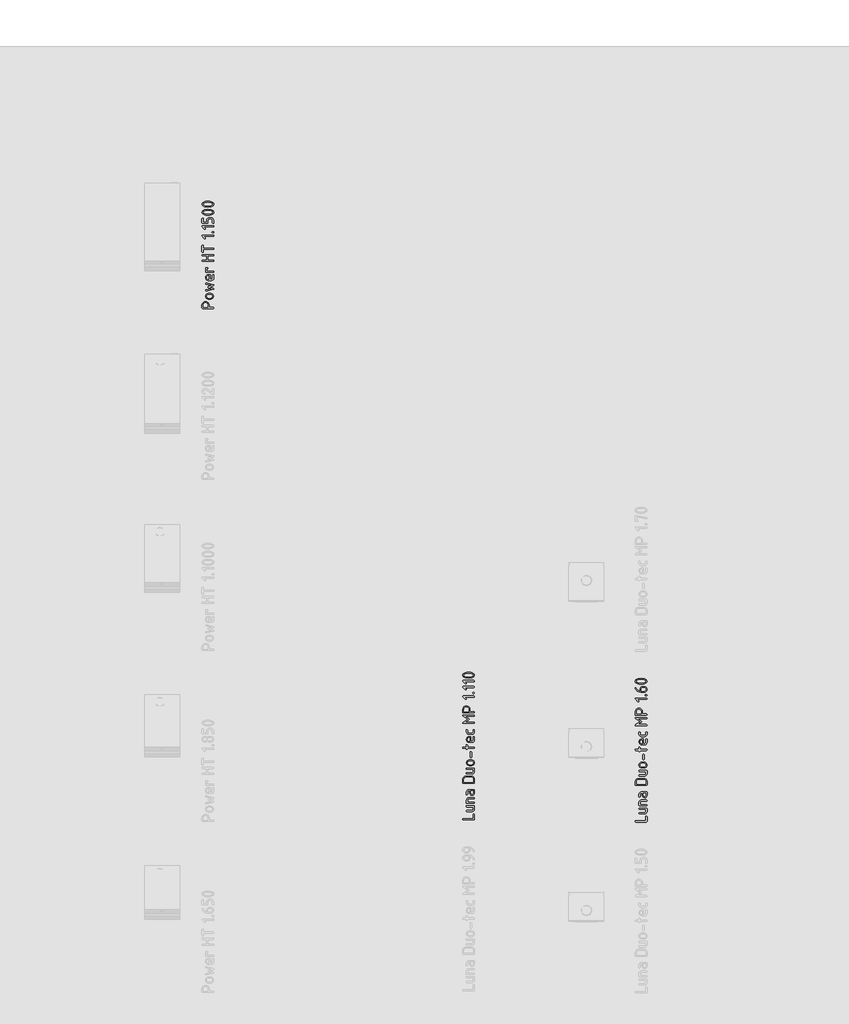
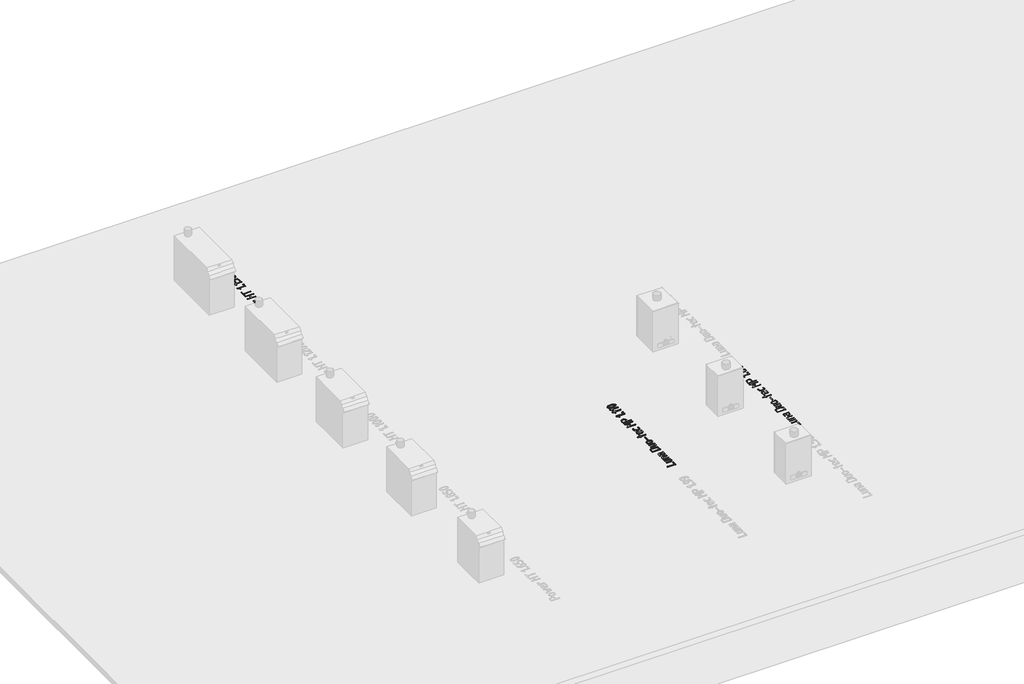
# One storey, part 34 of 37: 3 proxies.
"""IFC4 building model written with IfcOpenShell, lengths in millimetres."""

from ifc_helpers import new_model, si_unit, frame, origin, origin_with_axes, place, context, project, spatial, polyline, outline, extrude, element, save

model = new_model("IFC4")

# Units and contexts
model_context = context("Model", 3, world=origin())
ifc_project = project(units=[si_unit("LENGTHUNIT", "METRE", prefix="MILLI")], contexts=[model_context])

# Site, building, storey
site = spatial("IfcSite", under=ifc_project)
building = spatial("IfcBuilding", under=site)
storey = spatial("IfcBuildingStorey", under=building, Name="01_Стартовый вид_Площадка", Elevation=0.0)

# Proxies
placement = place(None, origin())
element("IfcBuildingElementProxy", 1, Name="150 мм", ObjectType="150 мм", at=placement, inside=storey, context=model_context, shape_type="SweptSolid", body=[
    extrude(outline(polyline([(10289.4415309, 17.2253481), (10283.7783913, 19.143025), (10281.8906781, 24.8960557), (10283.7684034, 30.6490864), (10289.4015793, 32.5667633), (10417.4065123, 32.5667633), (10417.4065123, 85.0631684), (10419.3241892, 90.6963443), (10425.0772199, 92.5740696), (10430.8302506, 90.6963443), (10432.7479275, 85.0631684), (10432.7479275, 24.8960557), (10430.8602143, 19.143025), (10425.1970747, 17.2253481), (10289.4415309, 17.2253481)])), frame((0.0, 0.0, -10.0), z_axis=(0.0, 0.0, 1.0), x_axis=(1.0, 0.0, 0.0)), (0.0, 0.0, 1.0), 10.0),
    extrude(outline(polyline([(10335.3858733, 196.2085254), (10425.2769779, 196.2085254), (10430.8801901, 194.3507759), (10432.7479275, 188.7775274), (10432.7479275, 151.7024407), (10430.5805531, 140.2063672), (10424.0784299, 130.6479464), (10414.4201301, 124.2057505), (10402.784226, 122.0583519), (10335.3858733, 122.0583519), (10329.7826611, 123.9760288), (10327.9149237, 129.7290595), (10329.7826611, 135.4820902), (10335.3858733, 137.3997671), (10402.5045648, 137.3997671), (10412.9918603, 141.6745885), (10417.4065123, 151.9021987), (10417.4065123, 180.8671102), (10335.3858733, 180.8671102), (10329.7826611, 182.7847871), (10327.9149237, 188.5378178), (10329.7826611, 194.2908485), (10335.3858733, 196.2085254)])), frame((0.0, 0.0, -10.0), z_axis=(0.0, 0.0, 1.0), x_axis=(1.0, 0.0, 0.0)), (0.0, 0.0, 1.0), 10.0),
    extrude(outline(polyline([(10425.2769779, 226.8913558), (10335.3858733, 226.8913558), (10329.7826611, 228.7491053), (10327.9149237, 234.3223538), (10327.9149237, 271.3974405), (10330.0822981, 282.893514), (10336.5844213, 292.4519348), (10346.2427211, 298.8941306), (10357.8786252, 301.0415292), (10425.2769779, 301.0415292), (10430.8801901, 299.1238523), (10432.7479275, 293.3708216), (10430.8801901, 287.6177909), (10425.2769779, 285.700114), (10358.1582865, 285.700114), (10347.5511361, 281.5251716), (10343.2563389, 271.1976825), (10343.2563389, 242.232771), (10425.2769779, 242.232771), (10430.8801901, 240.3150941), (10432.7479275, 234.5620634), (10430.8801901, 228.8090327), (10425.2769779, 226.8913558)])), frame((0.0, 0.0, -10.0), z_axis=(0.0, 0.0, 1.0), x_axis=(1.0, 0.0, 0.0)), (0.0, 0.0, 1.0), 10.0),
    extrude(outline(polyline([(10432.7479275, 360.5294647), (10430.5256197, 348.9135364), (10423.8586961, 339.2352608), (10413.9656806, 332.7031739), (10402.0650971, 330.5258116), (10386.6038271, 334.5209718), (10375.1876568, 345.2779406), (10371.3822667, 360.5294647), (10371.3822667, 390.5331179), (10357.3193028, 390.5331179), (10347.3114265, 386.2183449), (10343.2563389, 375.5512671), (10343.2563389, 345.5476139), (10341.338662, 339.9144381), (10335.5856313, 338.0367128), (10329.8326006, 339.9144381), (10327.9149237, 345.5476139), (10327.9149237, 375.5512671), (10330.0822981, 387.2321168), (10336.5844213, 397.0252532), (10346.2427211, 403.6622131), (10357.8786252, 405.8745331), (10425.2769779, 405.8745331), (10430.8801901, 403.9568562), (10432.7479275, 398.2038255), (10432.7479275, 360.5294647)]), holes=[polyline([(10386.7236819, 390.5331179), (10386.7236819, 360.5294647), (10391.1982614, 349.9223144), (10402.0650971, 345.5476139), (10412.8720055, 349.9822418), (10417.4065123, 360.5294647), (10417.4065123, 390.5331179), (10386.7236819, 390.5331179)])]), frame((0.0, 0.0, -10.0), z_axis=(0.0, 0.0, 1.0), x_axis=(1.0, 0.0, 0.0)), (0.0, 0.0, 1.0), 10.0),
    extrude(outline(polyline([(10289.4415309, 487.6954141), (10283.7783913, 489.5631515), (10281.8906781, 495.1663637), (10281.8906781, 539.912158), (10284.6173749, 554.3846259), (10292.7974655, 566.4000702), (10304.9527404, 574.4902696), (10319.6049905, 577.1870028), (10395.0336152, 577.1870028), (10409.5360467, 574.4603059), (10421.7212854, 566.2802154), (10429.991267, 554.2348074), (10432.7479275, 539.912158), (10432.7479275, 495.1663637), (10430.8602143, 489.5631515), (10425.1970747, 487.6954141), (10289.4415309, 487.6954141)]), holes=[polyline([(10297.2320933, 503.0368293), (10417.4065123, 503.0368293), (10417.4065123, 539.7923032), (10415.7585087, 548.2670368), (10410.814498, 555.3934039), (10403.5333185, 560.2325417), (10394.8738088, 561.8455876), (10319.7647969, 561.8455876), (10311.1052871, 560.2325417), (10303.8241076, 555.3934039), (10298.8800969, 548.2670368), (10297.2320933, 539.7923032), (10297.2320933, 503.0368293)])]), frame((0.0, 0.0, -10.0), z_axis=(0.0, 0.0, 1.0), x_axis=(1.0, 0.0, 0.0)), (0.0, 0.0, 1.0), 10.0),
    extrude(outline(polyline([(10335.3858733, 682.0200066), (10425.2769779, 682.0200066), (10430.8801901, 680.1622571), (10432.7479275, 674.5890087), (10432.7479275, 637.5139219), (10430.5805531, 626.0178484), (10424.0784299, 616.4594276), (10414.4201301, 610.0172318), (10402.784226, 607.8698332), (10335.3858733, 607.8698332), (10329.7826611, 609.7875101), (10327.9149237, 615.5405408), (10329.7826611, 621.2935715), (10335.3858733, 623.2112484), (10402.5045648, 623.2112484), (10412.9918603, 627.4860698), (10417.4065123, 637.7136799), (10417.4065123, 666.6785914), (10335.3858733, 666.6785914), (10329.7826611, 668.5962683), (10327.9149237, 674.349299), (10329.7826611, 680.1023297), (10335.3858733, 682.0200066)])), frame((0.0, 0.0, -10.0), z_axis=(0.0, 0.0, 1.0), x_axis=(1.0, 0.0, 0.0)), (0.0, 0.0, 1.0), 10.0),
    extrude(outline(polyline([(10395.3132764, 712.702837), (10365.3495748, 712.702837), (10350.9570102, 715.414552), (10338.8616627, 723.549697), (10330.6516084, 735.5301837), (10327.9149237, 749.7779238), (10330.6216447, 764.1754824), (10338.7418078, 776.1260053), (10350.8071917, 784.1712592), (10365.3495748, 786.8530105), (10395.3132764, 786.8530105), (10409.705841, 784.1412955), (10421.8011886, 776.0061505), (10430.0112428, 764.0256638), (10432.7479275, 749.7779238), (10430.0112428, 735.5301837), (10421.8011886, 723.549697), (10409.705841, 715.414552), (10395.3132764, 712.702837)]), holes=[polyline([(10394.8738088, 771.5115953), (10364.8701556, 771.5115953), (10356.2406096, 769.9185252), (10348.969418, 765.1393148), (10344.0254072, 758.1128267), (10342.3774036, 749.7779238), (10344.0254072, 741.4430208), (10348.969418, 734.4165328), (10356.2406096, 729.6373224), (10364.8701556, 728.0442522), (10394.8738088, 728.0442522), (10403.583258, 729.6223405), (10410.8544496, 734.3566054), (10415.7684966, 741.3681115), (10417.4065123, 749.7779238), (10415.7585087, 758.1128267), (10410.814498, 765.1393148), (10403.5333185, 769.9185252), (10394.8738088, 771.5115953)])]), frame((0.0, 0.0, -10.0), z_axis=(0.0, 0.0, 1.0), x_axis=(1.0, 0.0, 0.0)), (0.0, 0.0, 1.0), 10.0),
    extrude(outline(polyline([(10394.3943895, 884.694484), (10394.3943895, 824.6871777), (10392.4767126, 819.0540018), (10386.7236819, 817.1762765), (10380.9706512, 819.0540018), (10379.0529743, 824.6871777), (10379.0529743, 884.694484), (10380.9706512, 890.3276599), (10386.7236819, 892.2053852), (10392.4767126, 890.3276599), (10394.3943895, 884.694484)])), frame((0.0, 0.0, -10.0), z_axis=(0.0, 0.0, 1.0), x_axis=(1.0, 0.0, 0.0)), (0.0, 0.0, 1.0), 10.0),
    extrude(outline(polyline([(10343.2563389, 937.7102599), (10343.2563389, 930.1993587), (10341.338662, 924.5661828), (10335.5856313, 922.6884575), (10329.8326006, 924.5661828), (10327.9149237, 930.1993587), (10327.9149237, 937.7102599), (10289.5613857, 937.7102599), (10283.808355, 939.6279368), (10281.8906781, 945.3809675), (10283.808355, 951.1339982), (10289.5613857, 953.0516751), (10327.9149237, 953.0516751), (10327.9149237, 975.5843787), (10329.8326006, 981.1875909), (10335.5856313, 983.0553283), (10341.338662, 981.1875909), (10343.2563389, 975.5843787), (10343.2563389, 953.0516751), (10425.2769779, 953.0516751), (10430.8801901, 951.1339982), (10432.7479275, 945.3809675), (10430.8801901, 939.6279368), (10425.2769779, 937.7102599), (10343.2563389, 937.7102599)])), frame((0.0, 0.0, -10.0), z_axis=(0.0, 0.0, 1.0), x_axis=(1.0, 0.0, 0.0)), (0.0, 0.0, 1.0), 10.0),
    extrude(outline(polyline([(10386.7236819, 1027.2018486), (10402.0650971, 1027.2018486), (10412.8720055, 1031.6364764), (10417.4065123, 1042.1836994), (10417.4065123, 1079.6982537), (10419.3241892, 1085.3314296), (10425.0772199, 1087.2091549), (10430.8302506, 1085.3314296), (10432.7479275, 1079.6982537), (10432.7479275, 1042.1836994), (10430.5805531, 1030.5278195), (10424.0784299, 1020.729689), (10414.4201301, 1014.0777473), (10402.784226, 1011.8604334), (10365.3495748, 1011.8604334), (10350.9570102, 1014.6420637), (10338.8616627, 1022.9869546), (10330.6516084, 1035.2271266), (10327.9149237, 1049.6946006), (10330.5717052, 1064.2719414), (10338.5420498, 1076.3622949), (10350.3876999, 1084.4974399), (10364.6703976, 1087.2091549), (10386.7236819, 1087.2091549), (10386.7236819, 1027.2018486)]), holes=[polyline([(10341.3786136, 1049.6946006), (10343.0266172, 1041.0650545), (10347.9706279, 1033.7938629), (10355.2418195, 1028.8498522), (10363.8713656, 1027.2018486), (10371.3822667, 1027.2018486), (10371.3822667, 1072.1873525), (10363.8713656, 1072.1873525), (10355.2418195, 1070.5393489), (10347.9706279, 1065.5953382), (10343.0266172, 1058.3241466), (10341.3786136, 1049.6946006)])]), frame((0.0, 0.0, -10.0), z_axis=(0.0, 0.0, 1.0), x_axis=(1.0, 0.0, 0.0)), (0.0, 0.0, 1.0), 10.0),
    extrude(outline(polyline([(10358.0783833, 1132.0348524), (10402.584468, 1132.0348524), (10413.0318119, 1136.4694803), (10417.4065123, 1147.0167032), (10417.4065123, 1169.5494068), (10419.3241892, 1175.152619), (10425.0772199, 1177.0203564), (10430.8302506, 1175.152619), (10432.7479275, 1169.5494068), (10432.7479275, 1147.0167032), (10430.5805531, 1135.3608233), (10424.0784299, 1125.5626929), (10414.4201301, 1118.9107511), (10402.784226, 1116.6934372), (10357.8786252, 1116.6934372), (10346.2427211, 1118.9107511), (10336.5844213, 1125.5626929), (10330.0822981, 1135.3608233), (10327.9149237, 1147.0167032), (10327.9149237, 1169.5494068), (10329.8326006, 1175.152619), (10335.5856313, 1177.0203564), (10341.338662, 1175.152619), (10343.2563389, 1169.5494068), (10343.2563389, 1147.0167032), (10347.5910877, 1136.4095529), (10358.0783833, 1132.0348524)])), frame((0.0, 0.0, -10.0), z_axis=(0.0, 0.0, 1.0), x_axis=(1.0, 0.0, 0.0)), (0.0, 0.0, 1.0), 10.0),
    extrude(outline(polyline([(10281.8906781, 1353.8461472), (10283.7783913, 1360.0785971), (10289.4415309, 1362.1560804), (10425.1970747, 1362.1560804), (10430.8602143, 1360.2384035), (10432.7479275, 1354.4853728), (10430.8602143, 1348.7323421), (10425.1970747, 1346.8146652), (10314.2514758, 1346.8146652), (10360.0759634, 1316.611254), (10364.5904944, 1309.7395785), (10360.0759634, 1302.7879997), (10314.2514758, 1272.6644917), (10425.1970747, 1272.6644917), (10430.8602143, 1270.7468148), (10432.7479275, 1264.9937841), (10430.8602143, 1259.2407534), (10425.1970747, 1257.3230765), (10289.4415309, 1257.3230765), (10283.7783913, 1259.3606082), (10281.8906781, 1265.4732034), (10285.6461287, 1272.6644917), (10343.6159033, 1309.6197237), (10285.2066611, 1346.8146652), (10281.8906781, 1353.8461472)])), frame((0.0, 0.0, -10.0), z_axis=(0.0, 0.0, 1.0), x_axis=(1.0, 0.0, 0.0)), (0.0, 0.0, 1.0), 10.0),
    extrude(outline(polyline([(10281.8906781, 1400.3098604), (10281.8906781, 1437.5847051), (10285.2466127, 1454.8388033), (10295.3144164, 1469.2863014), (10310.1764124, 1479.0694499), (10327.9149237, 1482.3304994), (10346.452467, 1479.2392442), (10361.1546566, 1469.9654786), (10370.7430411, 1455.7477022), (10373.9391693, 1437.8244147), (10373.9391693, 1408.180326), (10425.3968328, 1408.180326), (10430.9101538, 1406.2626491), (10432.7479275, 1400.5096184), (10430.8602143, 1394.7565877), (10425.1970747, 1392.8389108), (10289.4415309, 1392.8389108), (10283.7783913, 1394.7066482), (10281.8906781, 1400.3098604)]), holes=[polyline([(10297.2320933, 1408.180326), (10358.5977541, 1408.180326), (10358.5977541, 1437.5847051), (10356.3754462, 1448.9759057), (10349.7085226, 1458.4594172), (10339.8155072, 1464.8566675), (10327.9149237, 1466.9890842), (10316.0143402, 1464.8566675), (10306.1213247, 1458.4594172), (10299.4544012, 1448.9759057), (10297.2320933, 1437.5847051), (10297.2320933, 1408.180326)])]), frame((0.0, 0.0, -10.0), z_axis=(0.0, 0.0, 1.0), x_axis=(1.0, 0.0, 0.0)), (0.0, 0.0, 1.0), 10.0),
    extrude(outline(polyline([(10307.6195098, 1594.8342109), (10324.9185535, 1577.5751188), (10327.07594, 1572.3414589), (10325.1982147, 1566.708283), (10319.5650388, 1564.8305577), (10314.331379, 1567.0278958), (10284.8470966, 1596.3523718), (10281.8906781, 1602.5049185), (10283.7783913, 1608.2579492), (10289.4415309, 1610.1756261), (10425.1970747, 1610.1756261), (10430.8602143, 1608.2579492), (10432.7479275, 1602.5049185), (10430.8602143, 1596.7518878), (10425.1970747, 1594.8342109), (10307.6195098, 1594.8342109)])), frame((0.0, 0.0, -10.0), z_axis=(0.0, 0.0, 1.0), x_axis=(1.0, 0.0, 0.0)), (0.0, 0.0, 1.0), 10.0),
    extrude(outline(polyline([(10417.4065123, 1640.8584565), (10411.6534816, 1642.7761334), (10409.7358047, 1648.5291641), (10411.6534816, 1654.2821948), (10417.4065123, 1656.1998717), (10425.0772199, 1656.1998717), (10430.8302506, 1654.2821948), (10432.7479275, 1648.5291641), (10430.8302506, 1642.7761334), (10425.0772199, 1640.8584565), (10417.4065123, 1640.8584565)])), frame((0.0, 0.0, -10.0), z_axis=(0.0, 0.0, 1.0), x_axis=(1.0, 0.0, 0.0)), (0.0, 0.0, 1.0), 10.0),
    extrude(outline(polyline([(10281.8906781, 1738.3403655), (10283.808355, 1743.8536866), (10289.5613857, 1745.6914603), (10296.1933516, 1742.0159129), (10303.4445674, 1726.7044614), (10316.6485719, 1713.4505175), (10329.69277, 1705.8097736), (10343.2563389, 1702.2241173), (10343.2563389, 1723.9178372), (10345.9680539, 1738.395299), (10354.1031988, 1750.345822), (10366.133625, 1758.3611121), (10380.5311836, 1761.0328755), (10395.4730828, 1761.0328755), (10409.8706414, 1758.3211605), (10421.9010676, 1750.1860156), (10430.0362125, 1738.2055289), (10432.7479275, 1723.9577888), (10430.0212307, 1709.6351395), (10421.8411402, 1697.6696346), (10409.7457926, 1689.5794352), (10395.2733248, 1686.8827021), (10349.76845, 1686.8827021), (10325.7375614, 1691.0276808), (10304.8628493, 1703.4626169), (10292.0583608, 1716.9862342), (10283.608597, 1731.668448), (10281.8906781, 1738.3403655)]), holes=[polyline([(10358.5977541, 1702.2241173), (10395.353228, 1702.2241173), (10403.8779011, 1703.8022056), (10410.9942802, 1708.5364704), (10415.8034543, 1715.5479766), (10417.4065123, 1723.9577888), (10415.7934664, 1732.367601), (10410.9543286, 1739.3791072), (10403.8279616, 1744.113372), (10395.353228, 1745.6914603), (10380.6510384, 1745.6914603), (10372.1263653, 1744.0983902), (10365.0099862, 1739.3191798), (10360.2008121, 1732.2926918), (10358.5977541, 1723.9577888), (10358.5977541, 1702.2241173)])]), frame((0.0, 0.0, -10.0), z_axis=(0.0, 0.0, 1.0), x_axis=(1.0, 0.0, 0.0)), (0.0, 0.0, 1.0), 10.0),
    extrude(outline(polyline([(10357.3193028, 1865.8658794), (10382.4588484, 1864.2378516), (10403.9428224, 1859.3537682), (10425.5466513, 1846.9388079), (10430.9476085, 1838.5814321), (10432.7479275, 1828.7907927), (10430.9550994, 1819.0001532), (10425.576615, 1810.6427774), (10404.0626772, 1798.2278171), (10382.5487395, 1793.3437337), (10357.3193028, 1791.7157059), (10332.0898661, 1793.3437337), (10310.5759284, 1798.2278171), (10289.0619907, 1810.6427774), (10283.6835062, 1819.0001532), (10281.8906781, 1828.7907927), (10283.6909972, 1838.5814321), (10289.0919544, 1846.9388079), (10310.6957832, 1859.3537682), (10332.1797572, 1864.2378516), (10357.3193028, 1865.8658794)]), holes=[polyline([(10357.3193028, 1850.5244642), (10322.161893, 1846.6891104), (10303.4645432, 1839.298064), (10297.2320933, 1828.7907927), (10303.4945069, 1818.3734124), (10322.2817478, 1811.0123297), (10357.3193028, 1807.0571211), (10392.4767126, 1810.8924749), (10411.1740624, 1818.2835213), (10417.4065123, 1828.7907927), (10411.1740624, 1839.298064), (10392.4767126, 1846.6891104), (10357.3193028, 1850.5244642)])]), frame((0.0, 0.0, -10.0), z_axis=(0.0, 0.0, 1.0), x_axis=(1.0, 0.0, 0.0)), (0.0, 0.0, 1.0), 10.0),
])
element("IfcBuildingElementProxy", 2, Name="150 мм", ObjectType="150 мм", at=placement, inside=storey, context=model_context, shape_type="SweptSolid", body=[
    extrude(outline(polyline([(4705.0274469, 6632.9020615), (4705.0274469, 6670.1769062), (4708.3833815, 6687.4310044), (4718.4511852, 6701.8785025), (4733.3131812, 6711.661651), (4751.0516925, 6714.9227005), (4769.5892359, 6711.8314453), (4784.2914255, 6702.5576797), (4793.87981, 6688.3399033), (4797.0759381, 6670.4166158), (4797.0759381, 6640.7725271), (4848.5336016, 6640.7725271), (4854.0469227, 6638.8548502), (4855.8846964, 6633.1018195), (4853.9969832, 6627.3487888), (4848.3338436, 6625.4311119), (4712.5782997, 6625.4311119), (4706.9151601, 6627.2988493), (4705.0274469, 6632.9020615)]), holes=[polyline([(4720.3688621, 6640.7725271), (4781.7345229, 6640.7725271), (4781.7345229, 6670.1769062), (4779.5122151, 6681.5681068), (4772.8452915, 6691.0516183), (4762.952276, 6697.4488686), (4751.0516925, 6699.5812853), (4739.1511091, 6697.4488686), (4729.2580936, 6691.0516183), (4722.59117, 6681.5681068), (4720.3688621, 6670.1769062), (4720.3688621, 6640.7725271)])]), frame((0.0, 0.0, -10.0), z_axis=(0.0, 0.0, 1.0), x_axis=(1.0, 0.0, 0.0)), (0.0, 0.0, 1.0), 10.0),
    extrude(outline(polyline([(4818.4500452, 6745.6055309), (4788.4863437, 6745.6055309), (4774.093779, 6748.3172459), (4761.9984315, 6756.4523909), (4753.7883773, 6768.4328776), (4751.0516925, 6782.6806177), (4753.7584136, 6797.0781763), (4761.8785767, 6809.0286992), (4773.9439605, 6817.0739531), (4788.4863437, 6819.7557044), (4818.4500452, 6819.7557044), (4832.8426099, 6817.0439894), (4844.9379574, 6808.9088444), (4853.1480116, 6796.9283577), (4855.8846964, 6782.6806177), (4853.1480116, 6768.4328776), (4844.9379574, 6756.4523909), (4832.8426099, 6748.3172459), (4818.4500452, 6745.6055309)]), holes=[polyline([(4818.0105776, 6804.4142892), (4788.0069245, 6804.4142892), (4779.3773784, 6802.8212191), (4772.1061868, 6798.0420087), (4767.1621761, 6791.0155206), (4765.5141725, 6782.6806177), (4767.1621761, 6774.3457147), (4772.1061868, 6767.3192267), (4779.3773784, 6762.5400163), (4788.0069245, 6760.9469461), (4818.0105776, 6760.9469461), (4826.7200269, 6762.5250344), (4833.9912184, 6767.2592993), (4838.9052655, 6774.2708054), (4840.5432812, 6782.6806177), (4838.8952776, 6791.0155206), (4833.9512668, 6798.0420087), (4826.6700874, 6802.8212191), (4818.0105776, 6804.4142892)])]), frame((0.0, 0.0, -10.0), z_axis=(0.0, 0.0, 1.0), x_axis=(1.0, 0.0, 0.0)), (0.0, 0.0, 1.0), 10.0),
    extrude(outline(polyline([(4855.8846964, 6925.1080791), (4850.4512785, 6917.8368875), (4809.7006444, 6902.6153271), (4850.2115689, 6887.3538151), (4855.8846964, 6880.0826235), (4854.1268259, 6875.2285039), (4848.8532144, 6872.4918191), (4760.3604158, 6850.31868), (4758.2030293, 6850.0789704), (4752.8395267, 6851.9566957), (4751.0516925, 6857.5898716), (4752.4699744, 6862.364088), (4756.72482, 6864.8610631), (4823.0844311, 6881.4809296), (4785.8095863, 6895.4240387), (4780.9354909, 6902.6153271), (4785.8095863, 6909.6468091), (4823.2042859, 6923.6298698), (4756.72482, 6940.3296395), (4752.4699744, 6942.886542), (4751.0516925, 6947.600831), (4753.1491516, 6952.8344909), (4758.2030293, 6955.1117322), (4760.3604158, 6954.8720226), (4849.292682, 6932.6189803), (4854.2366928, 6929.9422229), (4855.8846964, 6925.1080791)])), frame((0.0, 0.0, -10.0), z_axis=(0.0, 0.0, 1.0), x_axis=(1.0, 0.0, 0.0)), (0.0, 0.0, 1.0), 10.0),
    extrude(outline(polyline([(4809.8604508, 7001.2957842), (4825.201866, 7001.2957842), (4836.0087744, 7005.7304121), (4840.5432812, 7016.277635), (4840.5432812, 7053.7921894), (4842.4609581, 7059.4253652), (4848.2139888, 7061.3030905), (4853.9670195, 7059.4253652), (4855.8846964, 7053.7921894), (4855.8846964, 7016.277635), (4853.717322, 7004.6217551), (4847.2151987, 6994.8236247), (4837.5568989, 6988.1716829), (4825.9209948, 6985.954369), (4788.4863437, 6985.954369), (4774.093779, 6988.7359993), (4761.9984315, 6997.0808902), (4753.7883773, 7009.3210623), (4751.0516925, 7023.7885362), (4753.7084741, 7038.365877), (4761.6788187, 7050.4562306), (4773.5244687, 7058.5913756), (4787.8071664, 7061.3030905), (4809.8604508, 7061.3030905), (4809.8604508, 7001.2957842)]), holes=[polyline([(4764.5153824, 7023.7885362), (4766.163386, 7015.1589901), (4771.1073968, 7007.8877986), (4778.3785884, 7002.9437878), (4787.0081344, 7001.2957842), (4794.5190356, 7001.2957842), (4794.5190356, 7046.2812882), (4787.0081344, 7046.2812882), (4778.3785884, 7044.6332846), (4771.1073968, 7039.6892738), (4766.163386, 7032.4180822), (4764.5153824, 7023.7885362)])]), frame((0.0, 0.0, -10.0), z_axis=(0.0, 0.0, 1.0), x_axis=(1.0, 0.0, 0.0)), (0.0, 0.0, 1.0), 10.0),
    extrude(outline(polyline([(4758.5226421, 7090.7873729), (4752.9194299, 7092.7050498), (4751.0516925, 7098.4580805), (4751.0516925, 7143.6433424), (4752.9693694, 7149.2465546), (4758.7224001, 7151.114292), (4773.9040089, 7151.114292), (4779.5371848, 7149.2465546), (4781.4149101, 7143.6433424), (4779.5371848, 7138.0101665), (4773.9040089, 7136.1324412), (4766.3931077, 7136.1324412), (4766.3931077, 7106.1287881), (4848.4137468, 7106.1287881), (4854.016959, 7104.2111112), (4855.8846964, 7098.4580805), (4854.016959, 7092.7050498), (4848.4137468, 7090.7873729), (4758.5226421, 7090.7873729)])), frame((0.0, 0.0, -10.0), z_axis=(0.0, 0.0, 1.0), x_axis=(1.0, 0.0, 0.0)), (0.0, 0.0, 1.0), 10.0),
    extrude(outline(polyline([(4848.3338436, 7231.4170122), (4712.5782997, 7231.4170122), (4706.9151601, 7233.3346891), (4705.0274469, 7239.0877198), (4706.9451238, 7244.8407505), (4712.6981545, 7246.7584274), (4766.3931077, 7246.7584274), (4766.3931077, 7305.5671856), (4712.6981545, 7305.5671856), (4706.9451238, 7307.4848625), (4705.0274469, 7313.2378932), (4706.9151601, 7318.9909239), (4712.5782997, 7320.9086008), (4848.3338436, 7320.9086008), (4853.9969832, 7318.9909239), (4855.8846964, 7313.2378932), (4854.0269469, 7307.4848625), (4848.4536984, 7305.5671856), (4781.7345229, 7305.5671856), (4781.7345229, 7246.7584274), (4848.4536984, 7246.7584274), (4854.0269469, 7244.8407505), (4855.8846964, 7239.0877198), (4853.9969832, 7233.3346891), (4848.3338436, 7231.4170122)])), frame((0.0, 0.0, -10.0), z_axis=(0.0, 0.0, 1.0), x_axis=(1.0, 0.0, 0.0)), (0.0, 0.0, 1.0), 10.0),
    extrude(outline(polyline([(4712.6981545, 7349.8735123), (4706.9451238, 7351.7512376), (4705.0274469, 7357.3844135), (4705.0274469, 7432.7331351), (4706.9451238, 7438.3363472), (4712.6981545, 7440.2040846), (4718.4511852, 7438.3363472), (4720.3688621, 7432.7331351), (4720.3688621, 7402.7294819), (4848.3737952, 7402.7294819), (4854.0069711, 7400.811805), (4855.8846964, 7395.0587743), (4854.0069711, 7389.3057436), (4848.3737952, 7387.3880667), (4720.3688621, 7387.3880667), (4720.3688621, 7357.3844135), (4718.4511852, 7351.7512376), (4712.6981545, 7349.8735123)])), frame((0.0, 0.0, -10.0), z_axis=(0.0, 0.0, 1.0), x_axis=(1.0, 0.0, 0.0)), (0.0, 0.0, 1.0), 10.0),
    extrude(outline(polyline([(4730.7562787, 7553.5867313), (4748.0553224, 7536.3276392), (4750.2127089, 7531.0939794), (4748.3349836, 7525.4608035), (4742.7018077, 7523.5830782), (4737.4681478, 7525.7804163), (4707.9838655, 7555.1048922), (4705.0274469, 7561.2574389), (4706.9151601, 7567.0104696), (4712.5782997, 7568.9281465), (4848.3338436, 7568.9281465), (4853.9969832, 7567.0104696), (4855.8846964, 7561.2574389), (4853.9969832, 7555.5044082), (4848.3338436, 7553.5867313), (4730.7562787, 7553.5867313)])), frame((0.0, 0.0, -10.0), z_axis=(0.0, 0.0, 1.0), x_axis=(1.0, 0.0, 0.0)), (0.0, 0.0, 1.0), 10.0),
    extrude(outline(polyline([(4840.5432812, 7599.6109769), (4834.7902505, 7601.5286538), (4832.8725736, 7607.2816845), (4834.7902505, 7613.0347152), (4840.5432812, 7614.9523921), (4848.2139888, 7614.9523921), (4853.9670195, 7613.0347152), (4855.8846964, 7607.2816845), (4853.9670195, 7601.5286538), (4848.2139888, 7599.6109769), (4840.5432812, 7599.6109769)])), frame((0.0, 0.0, -10.0), z_axis=(0.0, 0.0, 1.0), x_axis=(1.0, 0.0, 0.0)), (0.0, 0.0, 1.0), 10.0),
    extrude(outline(polyline([(4730.7562787, 7676.3180529), (4748.0553224, 7659.0589608), (4750.2127089, 7653.8253009), (4748.3349836, 7648.1921251), (4742.7018077, 7646.3143998), (4737.4681478, 7648.5117379), (4707.9838655, 7677.8362138), (4705.0274469, 7683.9887605), (4706.9151601, 7689.7417912), (4712.5782997, 7691.6594681), (4848.3338436, 7691.6594681), (4853.9969832, 7689.7417912), (4855.8846964, 7683.9887605), (4853.9969832, 7678.2357298), (4848.3338436, 7676.3180529), (4730.7562787, 7676.3180529)])), frame((0.0, 0.0, -10.0), z_axis=(0.0, 0.0, 1.0), x_axis=(1.0, 0.0, 0.0)), (0.0, 0.0, 1.0), 10.0),
    extrude(outline(polyline([(4774.0638153, 7722.3422985), (4712.6981545, 7722.3422985), (4706.9451238, 7724.1800722), (4705.0274469, 7729.6933933), (4705.0274469, 7781.1510568), (4706.9451238, 7786.7842327), (4712.6981545, 7788.661958), (4718.4511852, 7786.7842327), (4720.3688621, 7781.1510568), (4720.3688621, 7737.6837137), (4766.3931077, 7737.6837137), (4766.3931077, 7759.736998), (4769.1347864, 7773.8698773), (4777.3598225, 7785.745491), (4789.4202124, 7793.8057267), (4803.6679525, 7796.492472), (4818.6098516, 7796.492472), (4832.932501, 7793.7657751), (4844.977909, 7785.5856846), (4853.1579995, 7773.5902161), (4855.8846964, 7759.4173852), (4855.8846964, 7729.7732965), (4853.9670195, 7724.200048), (4848.2139888, 7722.3422985), (4842.4609581, 7724.1800722), (4840.5432812, 7729.6933933), (4840.5432812, 7759.0977724), (4838.9402232, 7767.6224455), (4834.1310491, 7774.7388246), (4827.0146699, 7779.5479987), (4818.4899968, 7781.1510568), (4803.7878073, 7781.1510568), (4795.3130737, 7779.5380108), (4788.1867067, 7774.698873), (4783.3475689, 7767.572506), (4781.7345229, 7759.0977724), (4781.7345229, 7729.6933933), (4779.816846, 7724.1800722), (4774.0638153, 7722.3422985)])), frame((0.0, 0.0, -10.0), z_axis=(0.0, 0.0, 1.0), x_axis=(1.0, 0.0, 0.0)), (0.0, 0.0, 1.0), 10.0),
    extrude(outline(polyline([(4780.4560717, 7901.3254758), (4805.5956173, 7899.697448), (4827.0795913, 7894.8133647), (4848.6834201, 7882.3984043), (4854.0843773, 7874.0410286), (4855.8846964, 7864.2503891), (4854.0918682, 7854.4597496), (4848.7133838, 7846.1023738), (4827.1994461, 7833.6874135), (4805.6855084, 7828.8033301), (4780.4560717, 7827.1753024), (4755.226635, 7828.8033301), (4733.7126972, 7833.6874135), (4712.1987595, 7846.1023738), (4706.8202751, 7854.4597496), (4705.0274469, 7864.2503891), (4706.827766, 7874.0410286), (4712.2287232, 7882.3984043), (4733.832552, 7894.8133647), (4755.3165261, 7899.697448), (4780.4560717, 7901.3254758)]), holes=[polyline([(4780.4560717, 7885.9840606), (4745.2986618, 7882.1487068), (4726.6013121, 7874.7576604), (4720.3688621, 7864.2503891), (4726.6312758, 7853.8330088), (4745.4185166, 7846.4719262), (4780.4560717, 7842.5167176), (4815.6134815, 7846.3520714), (4834.3108313, 7853.7431177), (4840.5432812, 7864.2503891), (4834.3108313, 7874.7576604), (4815.6134815, 7882.1487068), (4780.4560717, 7885.9840606)])]), frame((0.0, 0.0, -10.0), z_axis=(0.0, 0.0, 1.0), x_axis=(1.0, 0.0, 0.0)), (0.0, 0.0, 1.0), 10.0),
    extrude(outline(polyline([(4780.4560717, 8006.1584797), (4805.5956173, 8004.5304519), (4827.0795913, 7999.6463685), (4848.6834201, 7987.2314082), (4854.0843773, 7978.8740324), (4855.8846964, 7969.0833929), (4854.0918682, 7959.2927534), (4848.7133838, 7950.9353777), (4827.1994461, 7938.5204173), (4805.6855084, 7933.636334), (4780.4560717, 7932.0083062), (4755.226635, 7933.636334), (4733.7126972, 7938.5204173), (4712.1987595, 7950.9353777), (4706.8202751, 7959.2927534), (4705.0274469, 7969.0833929), (4706.827766, 7978.8740324), (4712.2287232, 7987.2314082), (4733.832552, 7999.6463685), (4755.3165261, 8004.5304519), (4780.4560717, 8006.1584797)]), holes=[polyline([(4780.4560717, 7990.8170645), (4745.2986618, 7986.9817107), (4726.6013121, 7979.5906643), (4720.3688621, 7969.0833929), (4726.6312758, 7958.6660127), (4745.4185166, 7951.30493), (4780.4560717, 7947.3497214), (4815.6134815, 7951.1850752), (4834.3108313, 7958.5761216), (4840.5432812, 7969.0833929), (4834.3108313, 7979.5906643), (4815.6134815, 7986.9817107), (4780.4560717, 7990.8170645)])]), frame((0.0, 0.0, -10.0), z_axis=(0.0, 0.0, 1.0), x_axis=(1.0, 0.0, 0.0)), (0.0, 0.0, 1.0), 10.0),
])
element("IfcBuildingElementProxy", 3, Name="150 мм", ObjectType="150 мм", at=placement, inside=storey, context=model_context, shape_type="SweptSolid", body=[
    extrude(outline(polyline([(8069.0233862, 46.6727087), (8063.3602466, 48.5903856), (8061.4725334, 54.3434163), (8063.3502587, 60.096447), (8068.9834346, 62.0141239), (8196.9883677, 62.0141239), (8196.9883677, 114.510529), (8198.9060446, 120.1437049), (8204.6590753, 122.0214302), (8210.412106, 120.1437049), (8212.3297829, 114.510529), (8212.3297829, 54.3434163), (8210.4420697, 48.5903856), (8204.7789301, 46.6727087), (8069.0233862, 46.6727087)])), origin_with_axes(), (0.0, 0.0, 1.0), 10.0),
    extrude(outline(polyline([(8114.9677286, 225.655886), (8204.8588333, 225.655886), (8210.4620455, 223.7981365), (8212.3297829, 218.224888), (8212.3297829, 181.1498013), (8210.1624084, 169.6537278), (8203.6602852, 160.095307), (8194.0019854, 153.6531112), (8182.3660813, 151.5057126), (8114.9677286, 151.5057126), (8109.3645164, 153.4233895), (8107.496779, 159.1764202), (8109.3645164, 164.9294509), (8114.9677286, 166.8471278), (8182.0864201, 166.8471278), (8192.5737156, 171.1219492), (8196.9883677, 181.3495593), (8196.9883677, 210.3144708), (8114.9677286, 210.3144708), (8109.3645164, 212.2321477), (8107.496779, 217.9851784), (8109.3645164, 223.7382091), (8114.9677286, 225.655886)])), origin_with_axes(), (0.0, 0.0, 1.0), 10.0),
    extrude(outline(polyline([(8204.8588333, 256.3387164), (8114.9677286, 256.3387164), (8109.3645164, 258.1964659), (8107.496779, 263.7697144), (8107.496779, 300.8448011), (8109.6641534, 312.3408746), (8116.1662767, 321.8992954), (8125.8245765, 328.3414913), (8137.4604806, 330.4888899), (8204.8588333, 330.4888899), (8210.4620455, 328.571213), (8212.3297829, 322.8181823), (8210.4620455, 317.0651516), (8204.8588333, 315.1474747), (8137.7401418, 315.1474747), (8127.1329914, 310.9725323), (8122.8381942, 300.6450431), (8122.8381942, 271.6801316), (8204.8588333, 271.6801316), (8210.4620455, 269.7624547), (8212.3297829, 264.009424), (8210.4620455, 258.2563933), (8204.8588333, 256.3387164)])), origin_with_axes(), (0.0, 0.0, 1.0), 10.0),
    extrude(outline(polyline([(8212.3297829, 389.9768254), (8210.107475, 378.3608971), (8203.4405514, 368.6826215), (8193.5475359, 362.1505345), (8181.6469525, 359.9731722), (8166.1856825, 363.9683324), (8154.7695122, 374.7253013), (8150.9641221, 389.9768254), (8150.9641221, 419.9804785), (8136.9011581, 419.9804785), (8126.8932818, 415.6657055), (8122.8381942, 404.9986277), (8122.8381942, 374.9949746), (8120.9205173, 369.3617987), (8115.1674866, 367.4840734), (8109.4144559, 369.3617987), (8107.496779, 374.9949746), (8107.496779, 404.9986277), (8109.6641534, 416.6794774), (8116.1662767, 426.4726139), (8125.8245765, 433.1095738), (8137.4604806, 435.3218937), (8204.8588333, 435.3218937), (8210.4620455, 433.4042168), (8212.3297829, 427.6511861), (8212.3297829, 389.9768254)]), holes=[polyline([(8166.3055373, 419.9804785), (8166.3055373, 389.9768254), (8170.7801167, 379.369675), (8181.6469525, 374.9949746), (8192.4538608, 379.4296024), (8196.9883677, 389.9768254), (8196.9883677, 419.9804785), (8166.3055373, 419.9804785)])]), origin_with_axes(), (0.0, 0.0, 1.0), 10.0),
    extrude(outline(polyline([(8069.0233862, 517.1427748), (8063.3602466, 519.0105122), (8061.4725334, 524.6137244), (8061.4725334, 569.3595187), (8064.1992302, 583.8319865), (8072.3793208, 595.8474309), (8084.5345957, 603.9376303), (8099.1868458, 606.6343634), (8174.6154705, 606.6343634), (8189.117902, 603.9076666), (8201.3031407, 595.7275761), (8209.5731223, 583.682168), (8212.3297829, 569.3595187), (8212.3297829, 524.6137244), (8210.4420697, 519.0105122), (8204.7789301, 517.1427748), (8069.0233862, 517.1427748)]), holes=[polyline([(8076.8139486, 532.48419), (8196.9883677, 532.48419), (8196.9883677, 569.2396639), (8195.3403641, 577.7143975), (8190.3963533, 584.8407645), (8183.1151738, 589.6799023), (8174.4556641, 591.2929482), (8099.3466522, 591.2929482), (8090.6871424, 589.6799023), (8083.4059629, 584.8407645), (8078.4619522, 577.7143975), (8076.8139486, 569.2396639), (8076.8139486, 532.48419)])]), origin_with_axes(), (0.0, 0.0, 1.0), 10.0),
    extrude(outline(polyline([(8114.9677286, 711.4673673), (8204.8588333, 711.4673673), (8210.4620455, 709.6096178), (8212.3297829, 704.0363693), (8212.3297829, 666.9612826), (8210.1624084, 655.4652091), (8203.6602852, 645.9067883), (8194.0019854, 639.4645924), (8182.3660813, 637.3171938), (8114.9677286, 637.3171938), (8109.3645164, 639.2348707), (8107.496779, 644.9879014), (8109.3645164, 650.7409321), (8114.9677286, 652.658609), (8182.0864201, 652.658609), (8192.5737156, 656.9334304), (8196.9883677, 667.1610406), (8196.9883677, 696.1259521), (8114.9677286, 696.1259521), (8109.3645164, 698.043629), (8107.496779, 703.7966597), (8109.3645164, 709.5496904), (8114.9677286, 711.4673673)])), origin_with_axes(), (0.0, 0.0, 1.0), 10.0),
    extrude(outline(polyline([(8174.8951317, 742.1501977), (8144.9314301, 742.1501977), (8130.5388655, 744.8619127), (8118.443518, 752.9970576), (8110.2334637, 764.9775443), (8107.496779, 779.2252844), (8110.2035, 793.622843), (8118.3236632, 805.573366), (8130.389047, 813.6186198), (8144.9314301, 816.3003711), (8174.8951317, 816.3003711), (8189.2876964, 813.5886561), (8201.3830439, 805.4535112), (8209.5930981, 793.4730245), (8212.3297829, 779.2252844), (8209.5930981, 764.9775443), (8201.3830439, 752.9970576), (8189.2876964, 744.8619127), (8174.8951317, 742.1501977)]), holes=[polyline([(8174.4556641, 800.9589559), (8144.4520109, 800.9589559), (8135.8224649, 799.3658858), (8128.5512733, 794.5866754), (8123.6072625, 787.5601874), (8121.959259, 779.2252844), (8123.6072625, 770.8903814), (8128.5512733, 763.8638934), (8135.8224649, 759.084683), (8144.4520109, 757.4916129), (8174.4556641, 757.4916129), (8183.1651133, 759.0697011), (8190.4363049, 763.803966), (8195.350352, 770.8154722), (8196.9883677, 779.2252844), (8195.3403641, 787.5601874), (8190.3963533, 794.5866754), (8183.1151738, 799.3658858), (8174.4556641, 800.9589559)])]), origin_with_axes(), (0.0, 0.0, 1.0), 10.0),
    extrude(outline(polyline([(8173.9762449, 914.1418446), (8173.9762449, 854.1345383), (8172.058568, 848.5013624), (8166.3055373, 846.6236371), (8160.5525066, 848.5013624), (8158.6348297, 854.1345383), (8158.6348297, 914.1418446), (8160.5525066, 919.7750205), (8166.3055373, 921.6527458), (8172.058568, 919.7750205), (8173.9762449, 914.1418446)])), origin_with_axes(), (0.0, 0.0, 1.0), 10.0),
    extrude(outline(polyline([(8122.8381942, 967.1576206), (8122.8381942, 959.6467194), (8120.9205173, 954.0135435), (8115.1674866, 952.1358182), (8109.4144559, 954.0135435), (8107.496779, 959.6467194), (8107.496779, 967.1576206), (8069.143241, 967.1576206), (8063.3902103, 969.0752975), (8061.4725334, 974.8283282), (8063.3902103, 980.5813589), (8069.143241, 982.4990358), (8107.496779, 982.4990358), (8107.496779, 1005.0317393), (8109.4144559, 1010.6349515), (8115.1674866, 1012.5026889), (8120.9205173, 1010.6349515), (8122.8381942, 1005.0317393), (8122.8381942, 982.4990358), (8204.8588333, 982.4990358), (8210.4620455, 980.5813589), (8212.3297829, 974.8283282), (8210.4620455, 969.0752975), (8204.8588333, 967.1576206), (8122.8381942, 967.1576206)])), origin_with_axes(), (0.0, 0.0, 1.0), 10.0),
    extrude(outline(polyline([(8166.3055373, 1056.6492092), (8181.6469525, 1056.6492092), (8192.4538608, 1061.083837), (8196.9883677, 1071.63106), (8196.9883677, 1109.1456143), (8198.9060446, 1114.7787902), (8204.6590753, 1116.6565155), (8210.412106, 1114.7787902), (8212.3297829, 1109.1456143), (8212.3297829, 1071.63106), (8210.1624084, 1059.9751801), (8203.6602852, 1050.1770497), (8194.0019854, 1043.5251079), (8182.3660813, 1041.307794), (8144.9314301, 1041.307794), (8130.5388655, 1044.0894243), (8118.443518, 1052.4343152), (8110.2334637, 1064.6744873), (8107.496779, 1079.1419612), (8110.1535605, 1093.719302), (8118.1239052, 1105.8096556), (8129.9695552, 1113.9448005), (8144.2522529, 1116.6565155), (8166.3055373, 1116.6565155), (8166.3055373, 1056.6492092)]), holes=[polyline([(8120.9604689, 1079.1419612), (8122.6084725, 1070.5124151), (8127.5524832, 1063.2412236), (8134.8236748, 1058.2972128), (8143.4532209, 1056.6492092), (8150.9641221, 1056.6492092), (8150.9641221, 1101.6347132), (8143.4532209, 1101.6347132), (8134.8236748, 1099.9867096), (8127.5524832, 1095.0426988), (8122.6084725, 1087.7715072), (8120.9604689, 1079.1419612)])]), origin_with_axes(), (0.0, 0.0, 1.0), 10.0),
    extrude(outline(polyline([(8137.6602386, 1161.4822131), (8182.1663233, 1161.4822131), (8192.6136672, 1165.9168409), (8196.9883677, 1176.4640638), (8196.9883677, 1198.9967674), (8198.9060446, 1204.5999796), (8204.6590753, 1206.467717), (8210.412106, 1204.5999796), (8212.3297829, 1198.9967674), (8212.3297829, 1176.4640638), (8210.1624084, 1164.8081839), (8203.6602852, 1155.0100535), (8194.0019854, 1148.3581118), (8182.3660813, 1146.1407979), (8137.4604806, 1146.1407979), (8125.8245765, 1148.3581118), (8116.1662767, 1155.0100535), (8109.6641534, 1164.8081839), (8107.496779, 1176.4640638), (8107.496779, 1198.9967674), (8109.4144559, 1204.5999796), (8115.1674866, 1206.467717), (8120.9205173, 1204.5999796), (8122.8381942, 1198.9967674), (8122.8381942, 1176.4640638), (8127.172943, 1165.8569135), (8137.6602386, 1161.4822131)])), origin_with_axes(), (0.0, 0.0, 1.0), 10.0),
    extrude(outline(polyline([(8061.4725334, 1383.2935078), (8063.3602466, 1389.5259577), (8069.0233862, 1391.603441), (8204.7789301, 1391.603441), (8210.4420697, 1389.6857641), (8212.3297829, 1383.9327334), (8210.4420697, 1378.1797027), (8204.7789301, 1376.2620258), (8093.8333311, 1376.2620258), (8139.6578187, 1346.0586147), (8144.1723497, 1339.1869391), (8139.6578187, 1332.2353603), (8093.8333311, 1302.1118524), (8204.7789301, 1302.1118524), (8210.4420697, 1300.1941755), (8212.3297829, 1294.4411448), (8210.4420697, 1288.6881141), (8204.7789301, 1286.7704372), (8069.0233862, 1286.7704372), (8063.3602466, 1288.8079689), (8061.4725334, 1294.920564), (8065.227984, 1302.1118524), (8123.1977586, 1339.0670843), (8064.7885164, 1376.2620258), (8061.4725334, 1383.2935078)])), origin_with_axes(), (0.0, 0.0, 1.0), 10.0),
    extrude(outline(polyline([(8061.4725334, 1429.757221), (8061.4725334, 1467.0320658), (8064.828468, 1484.2861639), (8074.8962717, 1498.733662), (8089.7582677, 1508.5168106), (8107.496779, 1511.7778601), (8126.0343224, 1508.6866049), (8140.7365119, 1499.4128392), (8150.3248964, 1485.1950628), (8153.5210246, 1467.2717754), (8153.5210246, 1437.6276866), (8204.9786881, 1437.6276866), (8210.4920092, 1435.7100097), (8212.3297829, 1429.956979), (8210.4420697, 1424.2039483), (8204.7789301, 1422.2862714), (8069.0233862, 1422.2862714), (8063.3602466, 1424.1540088), (8061.4725334, 1429.757221)]), holes=[polyline([(8076.8139486, 1437.6276866), (8138.1796094, 1437.6276866), (8138.1796094, 1467.0320658), (8135.9573015, 1478.4232663), (8129.2903779, 1487.9067778), (8119.3973625, 1494.3040281), (8107.496779, 1496.4364449), (8095.5961955, 1494.3040281), (8085.7031801, 1487.9067778), (8079.0362565, 1478.4232663), (8076.8139486, 1467.0320658), (8076.8139486, 1437.6276866)])]), origin_with_axes(), (0.0, 0.0, 1.0), 10.0),
    extrude(outline(polyline([(8087.2013651, 1624.2815715), (8104.5004088, 1607.0224794), (8106.6577954, 1601.7888196), (8104.7800701, 1596.1556437), (8099.1468942, 1594.2779184), (8093.9132343, 1596.4752565), (8064.428952, 1625.7997324), (8061.4725334, 1631.9522791), (8063.3602466, 1637.7053098), (8069.0233862, 1639.6229867), (8204.7789301, 1639.6229867), (8210.4420697, 1637.7053098), (8212.3297829, 1631.9522791), (8210.4420697, 1626.1992484), (8204.7789301, 1624.2815715), (8087.2013651, 1624.2815715)])), origin_with_axes(), (0.0, 0.0, 1.0), 10.0),
    extrude(outline(polyline([(8196.9883677, 1670.3058171), (8191.235337, 1672.223494), (8189.3176601, 1677.9765247), (8191.235337, 1683.7295554), (8196.9883677, 1685.6472323), (8204.6590753, 1685.6472323), (8210.412106, 1683.7295554), (8212.3297829, 1677.9765247), (8210.412106, 1672.223494), (8204.6590753, 1670.3058171), (8196.9883677, 1670.3058171)])), origin_with_axes(), (0.0, 0.0, 1.0), 10.0),
    extrude(outline(polyline([(8087.2013651, 1747.0128931), (8104.5004088, 1729.753801), (8106.6577954, 1724.5201411), (8104.7800701, 1718.8869652), (8099.1468942, 1717.0092399), (8093.9132343, 1719.2065781), (8064.428952, 1748.531054), (8061.4725334, 1754.6836007), (8063.3602466, 1760.4366314), (8069.0233862, 1762.3543083), (8204.7789301, 1762.3543083), (8210.4420697, 1760.4366314), (8212.3297829, 1754.6836007), (8210.4420697, 1748.93057), (8204.7789301, 1747.0128931), (8087.2013651, 1747.0128931)])), origin_with_axes(), (0.0, 0.0, 1.0), 10.0),
    extrude(outline(polyline([(8087.2013651, 1823.7199691), (8104.5004088, 1806.460877), (8106.6577954, 1801.2272171), (8104.7800701, 1795.5940412), (8099.1468942, 1793.7163159), (8093.9132343, 1795.913654), (8064.428952, 1825.23813), (8061.4725334, 1831.3906767), (8063.3602466, 1837.1437074), (8069.0233862, 1839.0613843), (8204.7789301, 1839.0613843), (8210.4420697, 1837.1437074), (8212.3297829, 1831.3906767), (8210.4420697, 1825.637646), (8204.7789301, 1823.7199691), (8087.2013651, 1823.7199691)])), origin_with_axes(), (0.0, 0.0, 1.0), 10.0),
    extrude(outline(polyline([(8136.9011581, 1943.8943881), (8162.0407037, 1942.2663604), (8183.5246778, 1937.382277), (8205.1285066, 1924.9673167), (8210.5294638, 1916.6099409), (8212.3297829, 1906.8193014), (8210.5369547, 1897.0286619), (8205.1584703, 1888.6712862), (8183.6445326, 1876.2563258), (8162.1305948, 1871.3722425), (8136.9011581, 1869.7442147), (8111.6717214, 1871.3722425), (8090.1577837, 1876.2563258), (8068.643846, 1888.6712862), (8063.2653616, 1897.0286619), (8061.4725334, 1906.8193014), (8063.2728525, 1916.6099409), (8068.6738097, 1924.9673167), (8090.2776385, 1937.382277), (8111.7616125, 1942.2663604), (8136.9011581, 1943.8943881)]), holes=[polyline([(8136.9011581, 1928.5529729), (8101.7437483, 1924.7176191), (8083.0463985, 1917.3265728), (8076.8139486, 1906.8193014), (8083.0763622, 1896.4019212), (8101.8636031, 1889.0408385), (8136.9011581, 1885.0856299), (8172.058568, 1888.9209837), (8190.7559177, 1896.3120301), (8196.9883677, 1906.8193014), (8190.7559177, 1917.3265728), (8172.058568, 1924.7176191), (8136.9011581, 1928.5529729)])]), origin_with_axes(), (0.0, 0.0, 1.0), 10.0),
])

save(model, "model.ifc")
